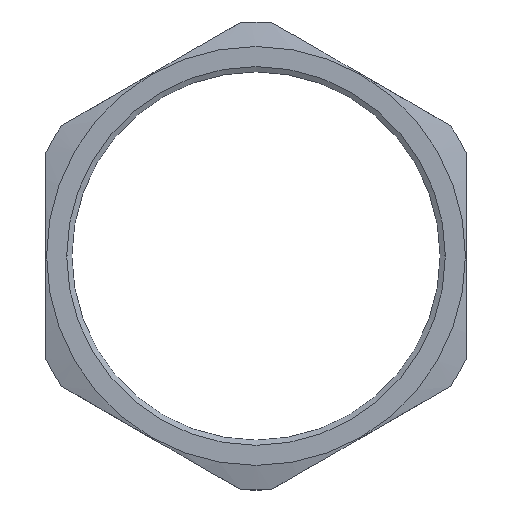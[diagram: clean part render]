
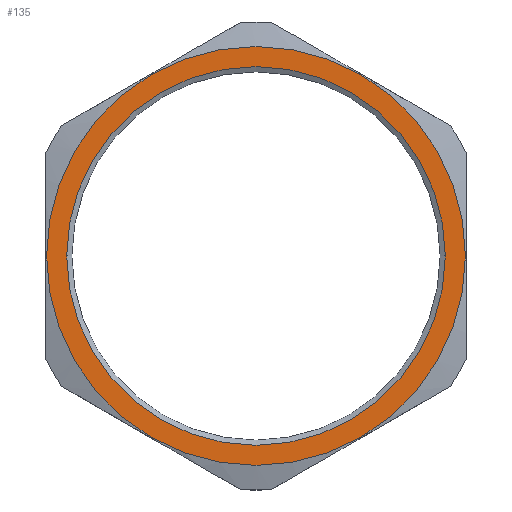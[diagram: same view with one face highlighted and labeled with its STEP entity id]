
A CAD part, top view. The second image highlights one B-rep face of the part: STEP entity #135.
In plain terms, the highlighted planar face has unit normal (0, 0, 1).
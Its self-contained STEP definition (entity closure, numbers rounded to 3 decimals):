
#26 = VERTEX_POINT ( 'NONE', #265 ) ;
#28 = EDGE_CURVE ( 'NONE', #29, #32, #263, .T. ) ;
#29 = VERTEX_POINT ( 'NONE', #258 ) ;
#32 = VERTEX_POINT ( 'NONE', #251 ) ;
#47 = EDGE_LOOP ( 'NONE', ( #129, #146 ) ) ;
#48 = EDGE_LOOP ( 'NONE', ( #147, #128 ) ) ;
#127 = EDGE_CURVE ( 'NONE', #32, #29, #456, .T. ) ;
#128 = ORIENTED_EDGE ( 'NONE', *, *, #28, .T. ) ;
#129 = ORIENTED_EDGE ( 'NONE', *, *, #133, .F. ) ;
#133 = EDGE_CURVE ( 'NONE', #1799, #26, #496, .T. ) ;
#135 = ADVANCED_FACE ( 'NONE', ( #491, #490 ), #489, .F. ) ;
#146 = ORIENTED_EDGE ( 'NONE', *, *, #1798, .F. ) ;
#147 = ORIENTED_EDGE ( 'NONE', *, *, #127, .T. ) ;
#251 = CARTESIAN_POINT ( 'NONE',  ( -34.9, 0., 0. ) ) ;
#258 = CARTESIAN_POINT ( 'NONE',  ( 34.9, 0., 0. ) ) ;
#259 = DIRECTION ( 'NONE',  ( 1., 0., 0. ) ) ;
#260 = DIRECTION ( 'NONE',  ( 0., 0., 1. ) ) ;
#261 = CARTESIAN_POINT ( 'NONE',  ( 0., 0., 0. ) ) ;
#262 = AXIS2_PLACEMENT_3D ( 'NONE', #261, #260, #259 ) ;
#263 = CIRCLE ( 'NONE', #262, 34.9 ) ;
#265 = CARTESIAN_POINT ( 'NONE',  ( -31.55, 0., 0. ) ) ;
#452 = DIRECTION ( 'NONE',  ( 1., 0., 0. ) ) ;
#453 = DIRECTION ( 'NONE',  ( 0., 0., 1. ) ) ;
#454 = CARTESIAN_POINT ( 'NONE',  ( 0., 0., 0. ) ) ;
#455 = AXIS2_PLACEMENT_3D ( 'NONE', #454, #453, #452 ) ;
#456 = CIRCLE ( 'NONE', #455, 34.9 ) ;
#485 = DIRECTION ( 'NONE',  ( -1., 0., 0. ) ) ;
#486 = DIRECTION ( 'NONE',  ( 0., 0., -1. ) ) ;
#487 = CARTESIAN_POINT ( 'NONE',  ( 0., 0., 0. ) ) ;
#488 = AXIS2_PLACEMENT_3D ( 'NONE', #487, #486, #485 ) ;
#489 = PLANE ( 'NONE',  #488 ) ;
#490 = FACE_BOUND ( 'NONE', #47, .T. ) ;
#491 = FACE_OUTER_BOUND ( 'NONE', #48, .T. ) ;
#492 = DIRECTION ( 'NONE',  ( 1., 0., 0. ) ) ;
#493 = DIRECTION ( 'NONE',  ( 0., 0., 1. ) ) ;
#494 = CARTESIAN_POINT ( 'NONE',  ( 0., 0., 0. ) ) ;
#495 = AXIS2_PLACEMENT_3D ( 'NONE', #494, #493, #492 ) ;
#496 = CIRCLE ( 'NONE', #495, 31.55 ) ;
#1370 = CARTESIAN_POINT ( 'NONE',  ( 31.55, 0., 0. ) ) ;
#1371 = DIRECTION ( 'NONE',  ( 1., 0., 0. ) ) ;
#1372 = DIRECTION ( 'NONE',  ( 0., 0., 1. ) ) ;
#1373 = AXIS2_PLACEMENT_3D ( 'NONE', #1386, #1372, #1371 ) ;
#1374 = CIRCLE ( 'NONE', #1373, 31.55 ) ;
#1386 = CARTESIAN_POINT ( 'NONE',  ( 0., 0., 0. ) ) ;
#1798 = EDGE_CURVE ( 'NONE', #26, #1799, #1374, .T. ) ;
#1799 = VERTEX_POINT ( 'NONE', #1370 ) ;
